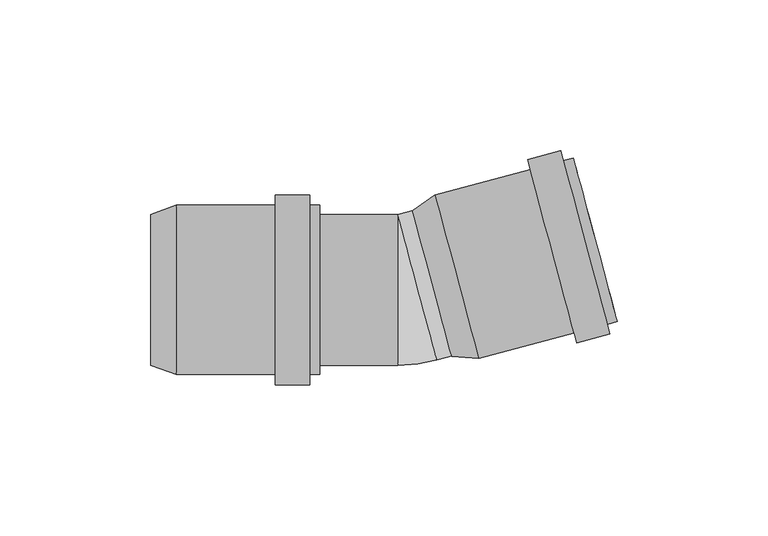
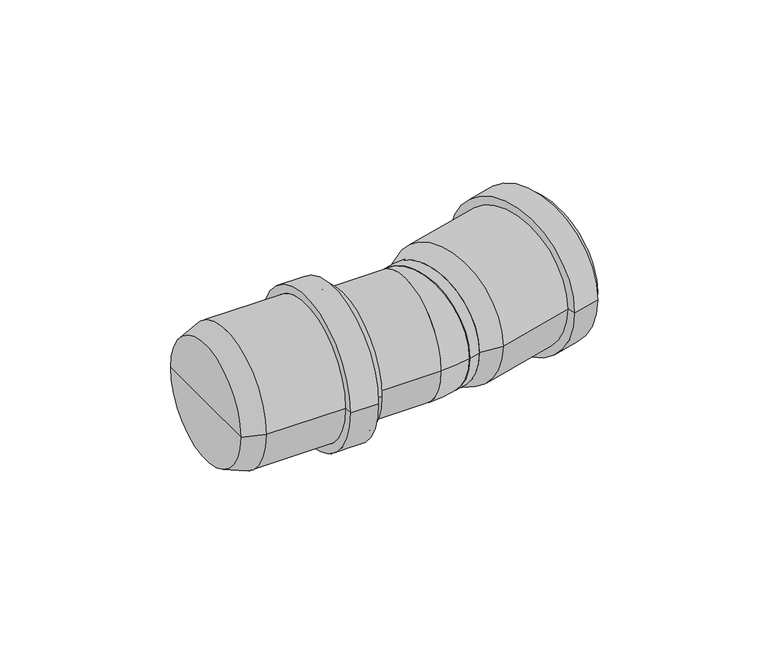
"""IFC4 building model written with IfcOpenShell, lengths in millimetres: pipe fitting geometry, pf_HTB : pf_HTB."""

from ifc_helpers import new_model, si_unit, point, frame, origin, origin_2d, place, context, project, spatial, polyline, circle_curve, ellipse_curve, trimmed, segment, composite_curve, outline, extrude, source, transform, mapped, element, save
from ifc_brep_helpers import plane_surface, cylinder_surface, revolved_surface, advanced_brep


def pipe_fitting_35e958b2(model_context):
    return source(origin(), model_context, "Body", "SolidModel", [
        advanced_brep(
        [(14.4876605, -21.9999476, 0.0), (1.5467082, 26.2963437, 0.0), (8.9547387, 31.4906757, 0.0), (23.500369, -22.7943558, 0.0), (8.0171844, 2.1481981, 0.0), (69.3818458, -10.5004511, 0.0), (54.8362155, 43.7845803, 0.0), (55.6385545, 40.7902103, 0.0), (68.5795068, -7.5060811, 0.0), (66.097698, -11.3804359, 0.0), (51.5520677, 42.9045956, 0.0), (66.9776827, -14.6645837, 0.0), (50.6720829, 46.1887434, 0.0), (55.9661283, -17.6151208, 0.0), (39.6605285, 43.2382063, 0.0), (55.0861436, -14.330973, 0.0), (40.5405132, 39.9540585, 0.0), (22.69803, -19.7999857, 0.0), (9.7570778, 28.4963056, 0.0), (16.2275539, 4.34816, 0.0)],
        [
            (0, 1, circle_curve(frame((8.0171844, 2.1481981, 0.0), z_axis=(0.9659258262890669, 0.25881904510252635, 0.0), x_axis=(-0.25881904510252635, 0.9659258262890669, 0.0)), 25.0)),
            (1, 2),
            (2, 3, circle_curve(frame((16.2275539, 4.34816, 0.0), z_axis=(-0.9659258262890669, -0.25881904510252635, 0.0), x_axis=(-0.25881904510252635, 0.9659258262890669, 0.0)), 28.1)),
            (3, 0),
            (1, 0, circle_curve(frame((8.0171844, 2.1481981, 0.0), z_axis=(0.9659258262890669, 0.25881904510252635, 0.0), x_axis=(-0.25881904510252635, 0.9659258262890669, 0.0)), 25.0)),
            (3, 2, circle_curve(frame((16.2275539, 4.34816, 0.0), z_axis=(-0.9659258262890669, -0.25881904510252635, 0.0), x_axis=(-0.25881904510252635, 0.9659258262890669, 0.0)), 28.1)),
            (4, 1),
            (0, 4),
            (5, 6, circle_curve(frame((62.1090306, 16.6420646, 0.0), z_axis=(0.9659258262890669, 0.25881904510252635, 0.0), x_axis=(-0.25881904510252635, 0.9659258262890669, 0.0)), 28.1)),
            (6, 7),
            (7, 8, circle_curve(frame((62.1090306, 16.6420646, 0.0), z_axis=(-0.9659258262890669, -0.25881904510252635, 0.0), x_axis=(-0.25881904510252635, 0.9659258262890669, 0.0)), 25.0)),
            (8, 5),
            (6, 5, circle_curve(frame((62.1090306, 16.6420646, 0.0), z_axis=(0.9659258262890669, 0.25881904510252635, 0.0), x_axis=(-0.25881904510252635, 0.9659258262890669, 0.0)), 28.1)),
            (8, 7, circle_curve(frame((62.1090306, 16.6420646, 0.0), z_axis=(-0.9659258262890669, -0.25881904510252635, 0.0), x_axis=(-0.25881904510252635, 0.9659258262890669, 0.0)), 25.0)),
            (9, 10, circle_curve(frame((58.8248828, 15.7620798, 0.0), z_axis=(0.9659258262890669, 0.25881904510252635, 0.0), x_axis=(-0.25881904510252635, 0.9659258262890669, 0.0)), 28.1)),
            (10, 6),
            (5, 9),
            (10, 9, circle_curve(frame((58.8248828, 15.7620798, 0.0), z_axis=(0.9659258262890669, 0.25881904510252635, 0.0), x_axis=(-0.25881904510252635, 0.9659258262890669, 0.0)), 28.1)),
            (11, 12, circle_curve(frame((58.8248828, 15.7620798, 0.0), z_axis=(0.9659258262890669, 0.25881904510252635, 0.0), x_axis=(-0.25881904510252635, 0.9659258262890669, 0.0)), 31.5)),
            (12, 10),
            (9, 11),
            (12, 11, circle_curve(frame((58.8248828, 15.7620798, 0.0), z_axis=(0.9659258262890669, 0.25881904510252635, 0.0), x_axis=(-0.25881904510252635, 0.9659258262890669, 0.0)), 31.5)),
            (13, 14, circle_curve(frame((47.8133284, 12.8115427, 0.0), z_axis=(0.9659258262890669, 0.25881904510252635, 0.0), x_axis=(-0.25881904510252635, 0.9659258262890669, 0.0)), 31.5)),
            (14, 12),
            (11, 13),
            (14, 13, circle_curve(frame((47.8133284, 12.8115427, 0.0), z_axis=(0.9659258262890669, 0.25881904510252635, 0.0), x_axis=(-0.25881904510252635, 0.9659258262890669, 0.0)), 31.5)),
            (15, 16, circle_curve(frame((47.8133284, 12.8115427, 0.0), z_axis=(0.9659258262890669, 0.25881904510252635, 0.0), x_axis=(-0.25881904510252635, 0.9659258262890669, 0.0)), 28.1)),
            (16, 14),
            (13, 15),
            (16, 15, circle_curve(frame((47.8133284, 12.8115427, 0.0), z_axis=(0.9659258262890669, 0.25881904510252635, 0.0), x_axis=(-0.25881904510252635, 0.9659258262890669, 0.0)), 28.1)),
            (2, 16),
            (15, 3),
            (17, 18, circle_curve(frame((16.2275539, 4.34816, 0.0), z_axis=(0.9659258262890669, 0.25881904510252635, 0.0), x_axis=(-0.25881904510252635, 0.9659258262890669, 0.0)), 25.0)),
            (18, 19),
            (19, 17),
            (18, 17, circle_curve(frame((16.2275539, 4.34816, 0.0), z_axis=(0.9659258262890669, 0.25881904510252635, 0.0), x_axis=(-0.25881904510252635, 0.9659258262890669, 0.0)), 25.0)),
            (7, 18),
            (17, 8),
        ],
        [
            revolved_surface(polyline([(8.9547387, 31.4906757, 0.0), (1.5467082, 26.2963437, 0.0)]), (8.0171844, 2.1481981, 0.0), (-0.9659258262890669, -0.25881904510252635, 0.0)),
            plane_surface(frame((8.0171844, 2.1481981, 0.0), z_axis=(-0.9659258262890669, -0.25881904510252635, 0.0), x_axis=(-0.25881904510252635, 0.9659258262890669, 0.0))),
            plane_surface(frame((62.1090306, 16.6420646, 0.0), z_axis=(0.9659258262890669, 0.25881904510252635, 0.0), x_axis=(-0.25881904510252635, 0.9659258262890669, 0.0))),
            cylinder_surface(frame((8.0171844, 2.1481981, 0.0), z_axis=(-0.9659258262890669, -0.25881904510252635, 0.0), x_axis=(-0.25881904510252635, 0.9659258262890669, 0.0)), 28.1),
            plane_surface(frame((58.8248828, 15.7620798, 0.0), z_axis=(0.9659258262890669, 0.25881904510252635, 0.0), x_axis=(-0.25881904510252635, 0.9659258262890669, 0.0))),
            cylinder_surface(frame((8.0171844, 2.1481981, 0.0), z_axis=(-0.9659258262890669, -0.25881904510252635, 0.0), x_axis=(-0.25881904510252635, 0.9659258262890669, 0.0)), 31.5),
            plane_surface(frame((47.8133284, 12.8115427, 0.0), z_axis=(-0.9659258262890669, -0.25881904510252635, 0.0), x_axis=(-0.25881904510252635, 0.9659258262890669, 0.0))),
            plane_surface(frame((16.2275539, 4.34816, 0.0), z_axis=(0.9659258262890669, 0.25881904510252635, 0.0), x_axis=(-0.25881904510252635, 0.9659258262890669, 0.0))),
            revolved_surface(polyline([(9.75707774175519, 28.49630562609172, 0.0), (55.63855452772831, 40.7902102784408, 0.0)]), (8.0171844, 2.1481981, 0.0), (-0.9659258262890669, -0.25881904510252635, 0.0)),
        ],
        [
            (0, [[1, 2, 3, 4]]),
            (0, [[5, -4, 6, -2]]),
            (1, [[7, -1, 8]]),
            (1, [[-8, -5, -7]]),
            (2, [[9, 10, 11, 12]]),
            (2, [[13, -12, 14, -10]]),
            (3, [[15, 16, -9, 17]]),
            (3, [[18, -17, -13, -16]]),
            (4, [[19, 20, -15, 21]]),
            (4, [[22, -21, -18, -20]]),
            (5, [[23, 24, -19, 25]]),
            (5, [[26, -25, -22, -24]]),
            (6, [[27, 28, -23, 29]]),
            (6, [[30, -29, -26, -28]]),
            (3, [[-3, 31, -27, 32]]),
            (3, [[-6, -32, -30, -31]]),
            (7, [[33, 34, 35]]),
            (7, [[36, -35, -34]]),
            (8, [[-11, 37, -33, 38]]),
            (8, [[-14, -38, -36, -37]]),
        ],
    ),
        advanced_brep(
        [(-85.2, -25.0, 0.0), (-85.2, 25.0, 0.0), (-76.7, 28.1, 0.0), (-76.7, -28.1, 0.0), (-85.2, 0.0, 0.0), (-29.2, -28.1, 0.0), (-29.2, 28.1, 0.0), (-29.2, 25.0, 0.0), (-29.2, -25.0, 0.0), (-32.6, -28.1, 0.0), (-32.6, 28.1, 0.0), (-32.6, -31.5, 0.0), (-32.6, 31.5, 0.0), (-44.0, -31.5, 0.0), (-44.0, 31.5, 0.0), (-44.0, -28.1, 0.0), (-44.0, 28.1, 0.0), (-76.7, -25.0, 0.0), (-76.7, 25.0, 0.0), (-76.7, 0.0, 0.0)],
        [
            (0, 1, circle_curve(frame((-85.2, 0.0, 0.0), z_axis=(1.0, 0.0, 0.0), x_axis=(0.0, 1.0, 0.0)), 25.0)),
            (1, 2),
            (2, 3, circle_curve(frame((-76.7, 0.0, 0.0), z_axis=(-1.0, 0.0, 0.0), x_axis=(0.0, 1.0, 0.0)), 28.1)),
            (3, 0),
            (1, 0, circle_curve(frame((-85.2, 0.0, 0.0), z_axis=(1.0, 0.0, 0.0), x_axis=(0.0, 1.0, 0.0)), 25.0)),
            (3, 2, circle_curve(frame((-76.7, 0.0, 0.0), z_axis=(-1.0, 0.0, 0.0), x_axis=(0.0, 1.0, 0.0)), 28.1)),
            (4, 1),
            (0, 4),
            (5, 6, circle_curve(frame((-29.2, 0.0, 0.0), z_axis=(1.0, 0.0, 0.0), x_axis=(0.0, 1.0, 0.0)), 28.1)),
            (6, 7),
            (7, 8, circle_curve(frame((-29.2, 0.0, 0.0), z_axis=(-1.0, 0.0, 0.0), x_axis=(0.0, 1.0, 0.0)), 25.0)),
            (8, 5),
            (6, 5, circle_curve(frame((-29.2, 0.0, 0.0), z_axis=(1.0, 0.0, 0.0), x_axis=(0.0, 1.0, 0.0)), 28.1)),
            (8, 7, circle_curve(frame((-29.2, 0.0, 0.0), z_axis=(-1.0, 0.0, 0.0), x_axis=(0.0, 1.0, 0.0)), 25.0)),
            (9, 10, circle_curve(frame((-32.6, 0.0, 0.0), z_axis=(1.0, 0.0, 0.0), x_axis=(0.0, 1.0, 0.0)), 28.1)),
            (10, 6),
            (5, 9),
            (10, 9, circle_curve(frame((-32.6, 0.0, 0.0), z_axis=(1.0, 0.0, 0.0), x_axis=(0.0, 1.0, 0.0)), 28.1)),
            (11, 12, circle_curve(frame((-32.6, 0.0, 0.0), z_axis=(1.0, 0.0, 0.0), x_axis=(0.0, 1.0, 0.0)), 31.5)),
            (12, 10),
            (9, 11),
            (12, 11, circle_curve(frame((-32.6, 0.0, 0.0), z_axis=(1.0, 0.0, 0.0), x_axis=(0.0, 1.0, 0.0)), 31.5)),
            (13, 14, circle_curve(frame((-44.0, 0.0, 0.0), z_axis=(1.0, 0.0, 0.0), x_axis=(0.0, 1.0, 0.0)), 31.5)),
            (14, 12),
            (11, 13),
            (14, 13, circle_curve(frame((-44.0, 0.0, 0.0), z_axis=(1.0, 0.0, 0.0), x_axis=(0.0, 1.0, 0.0)), 31.5)),
            (15, 16, circle_curve(frame((-44.0, 0.0, 0.0), z_axis=(1.0, 0.0, 0.0), x_axis=(0.0, 1.0, 0.0)), 28.1)),
            (16, 14),
            (13, 15),
            (16, 15, circle_curve(frame((-44.0, 0.0, 0.0), z_axis=(1.0, 0.0, 0.0), x_axis=(0.0, 1.0, 0.0)), 28.1)),
            (2, 16),
            (15, 3),
            (17, 18, circle_curve(frame((-76.7, 0.0, 0.0), z_axis=(1.0, 0.0, 0.0), x_axis=(0.0, 1.0, 0.0)), 25.0)),
            (18, 19),
            (19, 17),
            (18, 17, circle_curve(frame((-76.7, 0.0, 0.0), z_axis=(1.0, 0.0, 0.0), x_axis=(0.0, 1.0, 0.0)), 25.0)),
            (7, 18),
            (17, 8),
        ],
        [
            revolved_surface(polyline([(-76.7, 28.1, 0.0), (-85.2, 25.0, 0.0)]), (-85.2, 0.0, 0.0), (-1.0, 0.0, 0.0)),
            plane_surface(frame((-85.2, 0.0, 0.0), z_axis=(-1.0, 0.0, 0.0), x_axis=(0.0, 1.0, 0.0))),
            plane_surface(frame((-29.2, 0.0, 0.0), z_axis=(1.0, 0.0, 0.0), x_axis=(0.0, 1.0, 0.0))),
            cylinder_surface(frame((-85.2, 0.0, 0.0), z_axis=(-1.0, 0.0, 0.0), x_axis=(0.0, 1.0, 0.0)), 28.1),
            plane_surface(frame((-32.6, 0.0, 0.0), z_axis=(1.0, 0.0, 0.0), x_axis=(0.0, 1.0, 0.0))),
            cylinder_surface(frame((-85.2, 0.0, 0.0), z_axis=(-1.0, 0.0, 0.0), x_axis=(0.0, 1.0, 0.0)), 31.5),
            plane_surface(frame((-44.0, 0.0, 0.0), z_axis=(-1.0, 0.0, 0.0), x_axis=(0.0, 1.0, 0.0))),
            plane_surface(frame((-76.7, 0.0, 0.0), z_axis=(1.0, 0.0, 0.0), x_axis=(0.0, 1.0, 0.0))),
            revolved_surface(polyline([(-76.7, 25.0, 0.0), (-29.200000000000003, 25.0, 0.0)]), (-85.2, 0.0, 0.0), (-1.0, 0.0, 0.0)),
        ],
        [
            (0, [[1, 2, 3, 4]]),
            (0, [[5, -4, 6, -2]]),
            (1, [[7, -1, 8]]),
            (1, [[-8, -5, -7]]),
            (2, [[9, 10, 11, 12]]),
            (2, [[13, -12, 14, -10]]),
            (3, [[15, 16, -9, 17]]),
            (3, [[18, -17, -13, -16]]),
            (4, [[19, 20, -15, 21]]),
            (4, [[22, -21, -18, -20]]),
            (5, [[23, 24, -19, 25]]),
            (5, [[26, -25, -22, -24]]),
            (6, [[27, 28, -23, 29]]),
            (6, [[30, -29, -26, -28]]),
            (3, [[-3, 31, -27, 32]]),
            (3, [[-6, -32, -30, -31]]),
            (7, [[33, 34, 35]]),
            (7, [[36, -35, -34]]),
            (8, [[-11, 37, -33, 38]]),
            (8, [[-14, -38, -36, -37]]),
        ],
    ),
        extrude(outline(composite_curve([segment(trimmed(circle_curve(origin_2d(), 25.0), [point((0.0, -25.0))], [point((0.0, 24.9999999))], False, "CARTESIAN"), True, "CONTINUOUS"), segment(trimmed(circle_curve(origin_2d(), 25.0), [point((0.0, 24.9999999))], [point((0.0, -25.0))], False, "CARTESIAN"), True, "CONTINUOUS")], self_intersect=False)), frame((3.1791637, 0.8518543, 0.0), z_axis=(0.9659258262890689, 0.25881904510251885, 0.0), x_axis=(0.0, 0.0, 1.0)), (0.0, 0.0, 1.0), 13.5086876),
        extrude(outline(composite_curve([segment(trimmed(circle_curve(origin_2d(), 25.0), [point((-25.0, 0.0))], [point((25.0, 0.0))], False, "CARTESIAN"), True, "CONTINUOUS"), segment(trimmed(circle_curve(origin_2d(), 25.0), [point((25.0, 0.0))], [point((-25.0, 0.0))], False, "CARTESIAN"), True, "CONTINUOUS")], self_intersect=False)), frame((-76.7, 0.0, 0.0), z_axis=(1.0, 0.0, 0.0), x_axis=(0.0, 1.0, 0.0)), (0.0, 0.0, 1.0), 73.4086876),
        advanced_brep(
        [(-3.2913124, -25.0, 0.0), (-3.2913124, 25.0, 0.0), (9.6496398, -23.2962913, 0.0)],
        [
            (0, 1, circle_curve(frame((-3.2913124, 0.0, 0.0), z_axis=(-1.0, 0.0, 0.0), x_axis=(0.0, 1.0, 0.0)), 25.0)),
            (1, 0, circle_curve(frame((-3.2913124, 0.0, 0.0), z_axis=(-1.0, 0.0, 0.0), x_axis=(0.0, 1.0, 0.0)), 25.0)),
            (2, 1, circle_curve(frame((3.1791637, 0.8518543, 0.0), z_axis=(0.9659258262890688, 0.25881904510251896, 0.0), x_axis=(-0.25881904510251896, 0.9659258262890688, 0.0)), 25.0)),
            (1, 2, circle_curve(frame((3.1791637, 0.8518543, 0.0), z_axis=(0.9659258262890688, 0.25881904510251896, 0.0), x_axis=(-0.25881904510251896, 0.9659258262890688, 0.0)), 25.0)),
            (2, 0, circle_curve(frame((-3.2913124, 25.0, 0.0), z_axis=(0.0, 0.0, -1.0), x_axis=(0.0, -1.0, 0.0)), 50.0)),
        ],
        [
            plane_surface(frame((-3.2913124, 25.0, -14.8), z_axis=(-1.0, 0.0, 0.0), x_axis=(0.0, -1.0, 0.0))),
            plane_surface(frame((-3.2913124, 25.0, -14.8), z_axis=(0.9659258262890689, 0.258819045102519, 0.0), x_axis=(0.258819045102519, -0.9659258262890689, 0.0))),
            revolved_surface(trimmed(ellipse_curve(frame((-3.2913124, 0.0, 0.0), z_axis=(1.0, 0.0, 0.0), x_axis=(0.0, 1.0, 0.0)), 25.0, 25.0), [point((-3.2913124, -25.0, 0.0))], [point((-3.2913124, 25.0, 0.0))], True, "CARTESIAN"), (-3.2913124, 25.0, -14.8), (0.0, 0.0, -1.0)),
            revolved_surface(trimmed(ellipse_curve(frame((-3.2913124, 0.0, 0.0), z_axis=(1.0, 0.0, 0.0), x_axis=(0.0, 1.0, 0.0)), 25.0, 25.0), [point((-3.2913124, 25.0, 0.0))], [point((-3.2913124, -25.0, 0.0))], True, "CARTESIAN"), (-3.2913124, 25.0, -14.8), (0.0, 0.0, -1.0)),
        ],
        [
            (0, [[1, 2]]),
            (1, [[3, 4]]),
            (2, [[5, -2, -3]]),
            (3, [[-1, -5, -4]]),
        ],
    ),
    ])


if __name__ == "__main__":
    model = new_model("IFC4")
    model_context = context("Model", 3, world=origin())
    ifc_project = project(units=[si_unit("LENGTHUNIT", "METRE", prefix="MILLI")], contexts=[model_context])
    site = spatial("IfcSite", under=ifc_project)
    building = spatial("IfcBuilding", under=site)
    placement = place(None, origin())
    pipe_fitting_shape = pipe_fitting_35e958b2(model_context)
    element("IfcPipeFitting", 1, ObjectType="pf_HTB : pf_HTB", at=placement, inside=building, context=model_context, shape_type="MappedRepresentation", body=[
        mapped(pipe_fitting_shape, transform((0.0, 0.0, 0.0), x_axis=(1.0, 0.0, 0.0), y_axis=(0.0, 1.0, 0.0), z_axis=(0.0, 0.0, 1.0))),
    ])
    save(model, "model.ifc")
